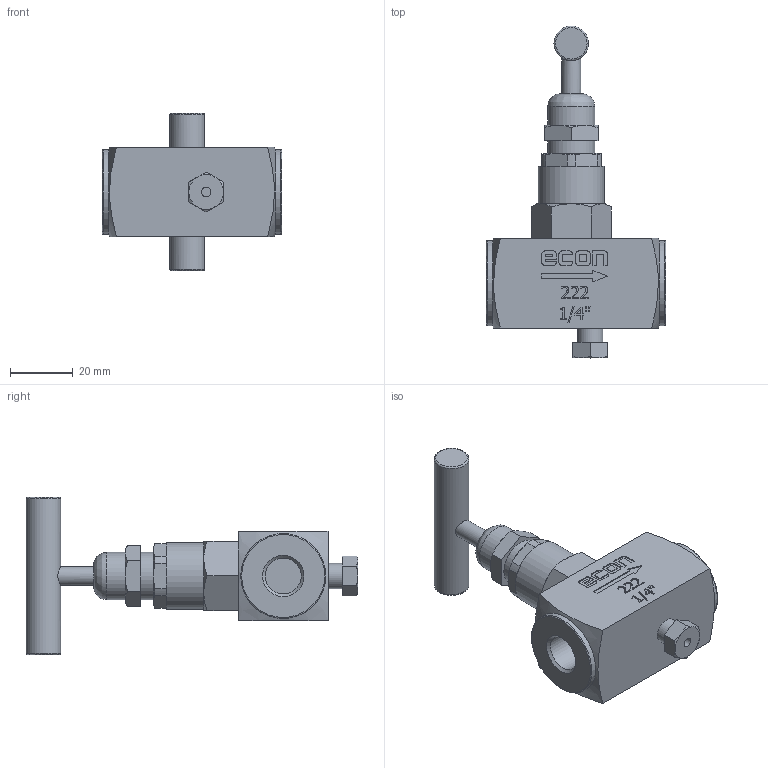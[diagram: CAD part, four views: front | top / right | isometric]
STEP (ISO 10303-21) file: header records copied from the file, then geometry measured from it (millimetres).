
FILE_DESCRIPTION(/* description */ ('Eriks item no: 1180628'),/* implementation_level */ '2;1');
FILE_NAME(/* name */ 'L:\DATA\ENG\Inventor\Econ 3D modellen\naaldafsluiter\222\222-008-PN400.stp',/* time_stamp */ '2024-02-13T11:42:33+01:00',/* author */ ('roger.thijssen'),/* organization */ (''),/* preprocessor_version */ 'ST-DEVELOPER v18',/* originating_system */ 'Autodesk Inventor 2020',/* authorisation */ '');
FILE_SCHEMA (('CONFIG_CONTROL_DESIGN'));
Length unit declared in the file: millimetre
Products named in the file (1): Needle valve, 222-008-PN400
Bounding box: 57 x 105.5 x 50 mm (x, y, z)
Volume: 61374.6 mm3; surface area: 14186 mm2
Topology: 1 solids, 1 shells, 253 faces, 647 edges, 425 vertices
Faces by surface type: plane 156, bspline 35, cylinder 30, cone 28, torus 4
Full cylindrical faces by diameter (mm): 3 x1, 6 x1, 8 x1, 11 x1, 11.445 x2, 15 x2, 21 x1, 27 x2
Entity records: 8197 total; most frequent: CARTESIAN_POINT 2045, ORIENTED_EDGE 1294, DIRECTION 1065, EDGE_CURVE 647, VERTEX_POINT 425, LINE 411, VECTOR 411, AXIS2_PLACEMENT_3D 327
